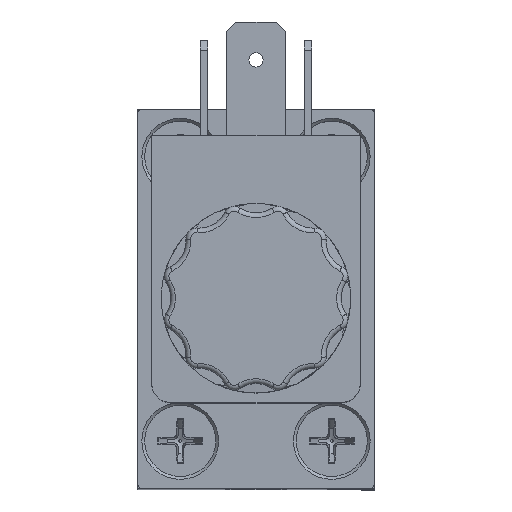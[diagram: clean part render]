
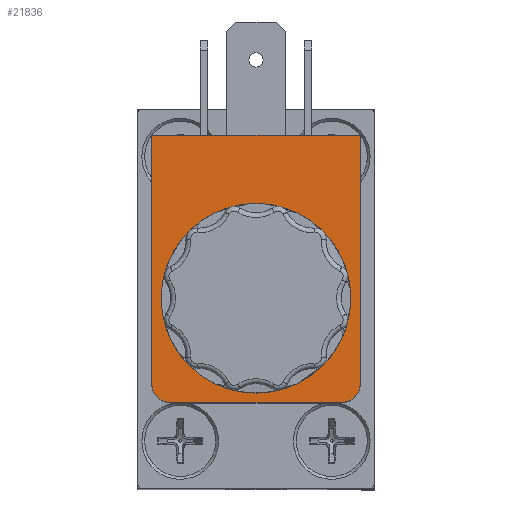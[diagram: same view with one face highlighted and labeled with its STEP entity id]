
A CAD part, top view. The second image highlights one B-rep face of the part: STEP entity #21836.
In plain terms, the highlighted planar face has unit normal (0, 0, 1).
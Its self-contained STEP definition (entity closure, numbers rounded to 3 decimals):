
#14 = VERTEX_POINT ( 'NONE', #21956 ) ;
#331 = EDGE_LOOP ( 'NONE', ( #10642 ) ) ;
#337 = EDGE_LOOP ( 'NONE', ( #10648, #10647, #10646, #10645, #10644, #10643 ) ) ;
#2809 = AXIS2_PLACEMENT_3D ( 'NONE', #7959, #7963, #7964 ) ;
#2815 = AXIS2_PLACEMENT_3D ( 'NONE', #8048, #8167, #5469 ) ;
#2819 = AXIS2_PLACEMENT_3D ( 'NONE', #8051, #8164, #8165 ) ;
#2907 = AXIS2_PLACEMENT_3D ( 'NONE', #8430, #8443, #8444 ) ;
#5469 = DIRECTION ( 'NONE',  ( -0.707, 0.707, 0. ) ) ;
#6043 = LINE ( 'NONE', #7872, #6065 ) ;
#6063 = LINE ( 'NONE', #7882, #6064 ) ;
#6064 = VECTOR ( 'NONE', #7883, 1000. ) ;
#6065 = VECTOR ( 'NONE', #7885, 1000. ) ;
#6137 = CIRCLE ( 'NONE', #2809, 8.3 ) ;
#6219 = LINE ( 'NONE', #8168, #6331 ) ;
#6242 = LINE ( 'NONE', #8075, #6243 ) ;
#6243 = VECTOR ( 'NONE', #8076, 1000. ) ;
#6331 = VECTOR ( 'NONE', #8169, 1000. ) ;
#6332 = CIRCLE ( 'NONE', #2819, 2. ) ;
#6334 = CIRCLE ( 'NONE', #2815, 2. ) ;
#7872 = CARTESIAN_POINT ( 'NONE',  ( -11., -17.2, 30.5 ) ) ;
#7882 = CARTESIAN_POINT ( 'NONE',  ( 11., -17.2, 30.5 ) ) ;
#7883 = DIRECTION ( 'NONE',  ( -1., 0., 0. ) ) ;
#7885 = DIRECTION ( 'NONE',  ( 0., 1., 0. ) ) ;
#7959 = CARTESIAN_POINT ( 'NONE',  ( 0., 0., 30.5 ) ) ;
#7963 = DIRECTION ( 'NONE',  ( 0., 0., -1. ) ) ;
#7964 = DIRECTION ( 'NONE',  ( -1., 0., 0. ) ) ;
#8048 = CARTESIAN_POINT ( 'NONE',  ( -9., 9., 30.5 ) ) ;
#8051 = CARTESIAN_POINT ( 'NONE',  ( 9., 9., 30.5 ) ) ;
#8075 = CARTESIAN_POINT ( 'NONE',  ( -9., 11., 30.5 ) ) ;
#8076 = DIRECTION ( 'NONE',  ( 1., 0., 0. ) ) ;
#8164 = DIRECTION ( 'NONE',  ( 0., 0., -1. ) ) ;
#8165 = DIRECTION ( 'NONE',  ( 0.707, 0.707, 0. ) ) ;
#8167 = DIRECTION ( 'NONE',  ( 0., 0., -1. ) ) ;
#8168 = CARTESIAN_POINT ( 'NONE',  ( 11., 9., 30.5 ) ) ;
#8169 = DIRECTION ( 'NONE',  ( 0., -1., 0. ) ) ;
#8430 = CARTESIAN_POINT ( 'NONE',  ( 0., -3.1, 30.5 ) ) ;
#8434 = PLANE ( 'NONE',  #2907 ) ;
#8443 = DIRECTION ( 'NONE',  ( 0., 0., 1. ) ) ;
#8444 = DIRECTION ( 'NONE',  ( 0.707, 0.707, 0. ) ) ;
#9584 = FACE_OUTER_BOUND ( 'NONE', #337, .T. ) ;
#9593 = FACE_BOUND ( 'NONE', #331, .T. ) ;
#10642 = ORIENTED_EDGE ( 'NONE', *, *, #21653, .T. ) ;
#10643 = ORIENTED_EDGE ( 'NONE', *, *, #21754, .F. ) ;
#10644 = ORIENTED_EDGE ( 'NONE', *, *, #21615, .F. ) ;
#10645 = ORIENTED_EDGE ( 'NONE', *, *, #21616, .F. ) ;
#10646 = ORIENTED_EDGE ( 'NONE', *, *, #21753, .F. ) ;
#10647 = ORIENTED_EDGE ( 'NONE', *, *, #21708, .F. ) ;
#10648 = ORIENTED_EDGE ( 'NONE', *, *, #21752, .F. ) ;
#20995 = CARTESIAN_POINT ( 'NONE',  ( 11., -17.2, 30.5 ) ) ;
#21028 = CARTESIAN_POINT ( 'NONE',  ( 11., 9., 30.5 ) ) ;
#21104 = CARTESIAN_POINT ( 'NONE',  ( -11., -17.2, 30.5 ) ) ;
#21109 = CARTESIAN_POINT ( 'NONE',  ( 9., 11., 30.5 ) ) ;
#21228 = CARTESIAN_POINT ( 'NONE',  ( -11., 9., 30.5 ) ) ;
#21433 = VERTEX_POINT ( 'NONE', #21434 ) ;
#21434 = CARTESIAN_POINT ( 'NONE',  ( -8.3, 0., 30.5 ) ) ;
#21615 = EDGE_CURVE ( 'NONE', #24354, #24463, #6063, .T. ) ;
#21616 = EDGE_CURVE ( 'NONE', #24463, #24587, #6043, .T. ) ;
#21653 = EDGE_CURVE ( 'NONE', #21433, #21433, #6137, .T. ) ;
#21708 = EDGE_CURVE ( 'NONE', #14, #24468, #6242, .T. ) ;
#21752 = EDGE_CURVE ( 'NONE', #24468, #24387, #6332, .T. ) ;
#21753 = EDGE_CURVE ( 'NONE', #24587, #14, #6334, .T. ) ;
#21754 = EDGE_CURVE ( 'NONE', #24387, #24354, #6219, .T. ) ;
#21836 = ADVANCED_FACE ( 'NONE', ( #9584, #9593 ), #8434, .T. ) ;
#21956 = CARTESIAN_POINT ( 'NONE',  ( -9., 11., 30.5 ) ) ;
#24354 = VERTEX_POINT ( 'NONE', #20995 ) ;
#24387 = VERTEX_POINT ( 'NONE', #21028 ) ;
#24463 = VERTEX_POINT ( 'NONE', #21104 ) ;
#24468 = VERTEX_POINT ( 'NONE', #21109 ) ;
#24587 = VERTEX_POINT ( 'NONE', #21228 ) ;
